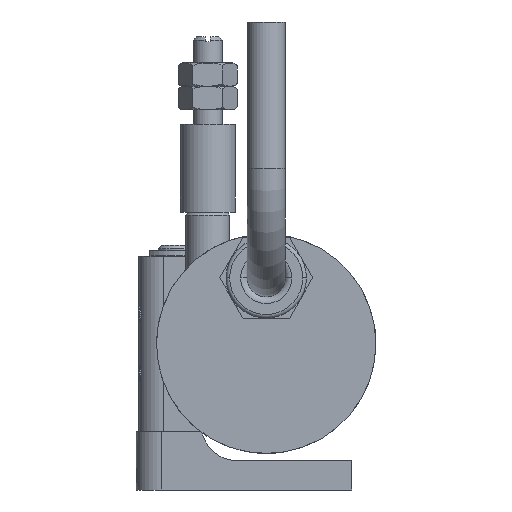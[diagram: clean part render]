
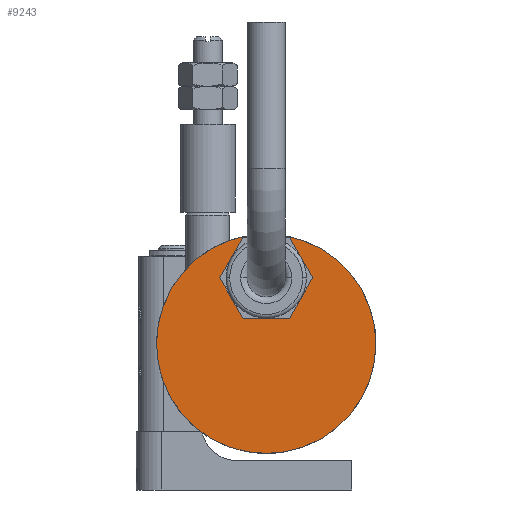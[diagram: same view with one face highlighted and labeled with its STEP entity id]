
A CAD part, left-side view. The second image highlights one B-rep face of the part: STEP entity #9243.
In plain terms, the highlighted planar face has unit normal (-1, 0, 0) as drawn and (0, 0, -1) by its records, which use the part's own axes.
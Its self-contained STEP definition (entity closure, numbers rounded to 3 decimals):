
#9120=CARTESIAN_POINT('',(0.,0.,0.));
#9121=DIRECTION('',(0.,0.,1.));
#9122=DIRECTION('',(1.,0.,0.));
#9123=AXIS2_PLACEMENT_3D('',#9120,#9121,#9122);
#9125=CARTESIAN_POINT('',(0.,0.,0.));
#9126=DIRECTION('',(0.,0.,1.));
#9127=DIRECTION('',(-1.,0.,0.));
#9128=AXIS2_PLACEMENT_3D('',#9125,#9126,#9127);
#9130=CARTESIAN_POINT('',(0.,9.,0.));
#9131=DIRECTION('',(0.,0.,1.));
#9132=DIRECTION('',(1.,0.,0.));
#9133=AXIS2_PLACEMENT_3D('',#9130,#9131,#9132);
#9135=CARTESIAN_POINT('',(0.,9.,0.));
#9136=DIRECTION('',(0.,0.,1.));
#9137=DIRECTION('',(-1.,0.,0.));
#9138=AXIS2_PLACEMENT_3D('',#9135,#9136,#9137);
#9202=CARTESIAN_POINT('',(15.,0.,0.));
#9203=CARTESIAN_POINT('',(-15.,0.,0.));
#9204=VERTEX_POINT('',#9202);
#9205=VERTEX_POINT('',#9203);
#9218=CARTESIAN_POINT('',(3.4,9.,0.));
#9219=CARTESIAN_POINT('',(-3.4,9.,0.));
#9220=VERTEX_POINT('',#9218);
#9221=VERTEX_POINT('',#9219);
#9226=CARTESIAN_POINT('',(0.,0.,0.));
#9227=DIRECTION('',(0.,0.,1.));
#9228=DIRECTION('',(1.,0.,0.));
#9229=AXIS2_PLACEMENT_3D('',#9226,#9227,#9228);
#9230=PLANE('',#9229);
#9232=ORIENTED_EDGE('',*,*,#9231,.T.);
#9234=ORIENTED_EDGE('',*,*,#9233,.T.);
#9235=EDGE_LOOP('',(#9232,#9234));
#9236=FACE_OUTER_BOUND('',#9235,.F.);
#9238=ORIENTED_EDGE('',*,*,#9237,.F.);
#9240=ORIENTED_EDGE('',*,*,#9239,.F.);
#9241=EDGE_LOOP('',(#9238,#9240));
#9242=FACE_BOUND('',#9241,.F.);
#9243=ADVANCED_FACE('',(#9236,#9242),#9230,.F.);
#9124=CIRCLE('',#9123,15.);
#9129=CIRCLE('',#9128,15.);
#9134=CIRCLE('',#9133,3.4);
#9139=CIRCLE('',#9138,3.4);
#9231=EDGE_CURVE('',#9204,#9205,#9124,.T.);
#9233=EDGE_CURVE('',#9205,#9204,#9129,.T.);
#9237=EDGE_CURVE('',#9220,#9221,#9134,.T.);
#9239=EDGE_CURVE('',#9221,#9220,#9139,.T.);
